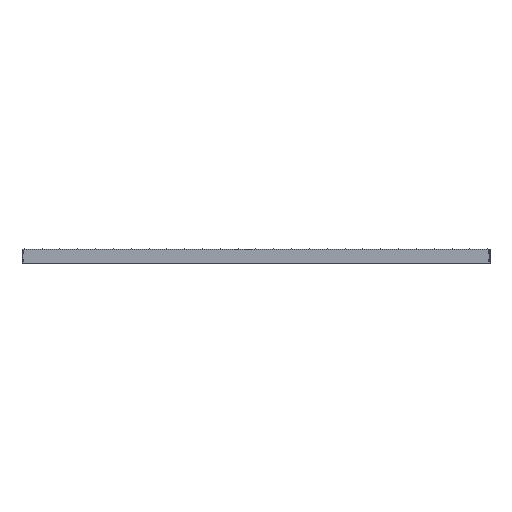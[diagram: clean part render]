
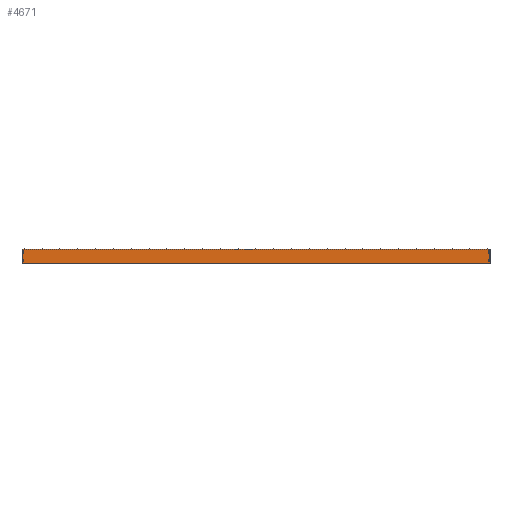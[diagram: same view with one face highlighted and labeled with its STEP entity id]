
A CAD part, front view. The second image highlights one B-rep face of the part: STEP entity #4671.
In plain terms, the highlighted planar face has unit normal (0, -1, 0) as drawn and (0, 0, 1) by its records, which use the part's own axes.
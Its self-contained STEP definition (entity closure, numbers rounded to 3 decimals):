
#506=PLANE('',#5105);
#666=LINE('',#6623,#1230);
#669=LINE('',#6629,#1233);
#670=LINE('',#6631,#1234);
#671=LINE('',#6633,#1235);
#1230=VECTOR('',#5655,1000.);
#1233=VECTOR('',#5660,1000.);
#1234=VECTOR('',#5661,1000.);
#1235=VECTOR('',#5662,1000.);
#2089=ORIENTED_EDGE('',*,*,#3143,.T.);
#2090=ORIENTED_EDGE('',*,*,#3144,.F.);
#2091=ORIENTED_EDGE('',*,*,#3145,.F.);
#2092=ORIENTED_EDGE('',*,*,#3140,.T.);
#3140=EDGE_CURVE('',#3705,#3704,#666,.T.);
#3143=EDGE_CURVE('',#3704,#3707,#669,.T.);
#3144=EDGE_CURVE('',#3708,#3707,#670,.T.);
#3145=EDGE_CURVE('',#3705,#3708,#671,.T.);
#3704=VERTEX_POINT('',#6622);
#3705=VERTEX_POINT('',#6624);
#3707=VERTEX_POINT('',#6630);
#3708=VERTEX_POINT('',#6632);
#4064=EDGE_LOOP('',(#2089,#2090,#2091,#2092));
#4350=FACE_BOUND('',#4064,.T.);
#4671=ADVANCED_FACE('',(#4350),#506,.F.);
#5105=AXIS2_PLACEMENT_3D('',#6628,#5658,#5659);
#5655=DIRECTION('',(-1.,0.,0.));
#5658=DIRECTION('',(0.,0.,-1.));
#5659=DIRECTION('',(-1.,0.,0.));
#5660=DIRECTION('',(0.,-1.,0.));
#5661=DIRECTION('',(-1.,0.,0.));
#5662=DIRECTION('',(0.,-1.,0.));
#6622=CARTESIAN_POINT('',(-500.,0.,500.));
#6623=CARTESIAN_POINT('',(500.,0.,500.));
#6624=CARTESIAN_POINT('',(500.,0.,500.));
#6628=CARTESIAN_POINT('',(500.,0.,500.));
#6629=CARTESIAN_POINT('',(-500.,0.,500.));
#6630=CARTESIAN_POINT('',(-500.,-30.,500.));
#6631=CARTESIAN_POINT('',(500.,-30.,500.));
#6632=CARTESIAN_POINT('',(500.,-30.,500.));
#6633=CARTESIAN_POINT('',(500.,0.,500.));
